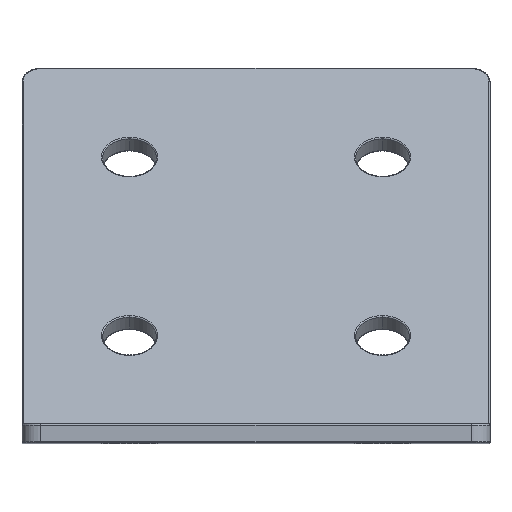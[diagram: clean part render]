
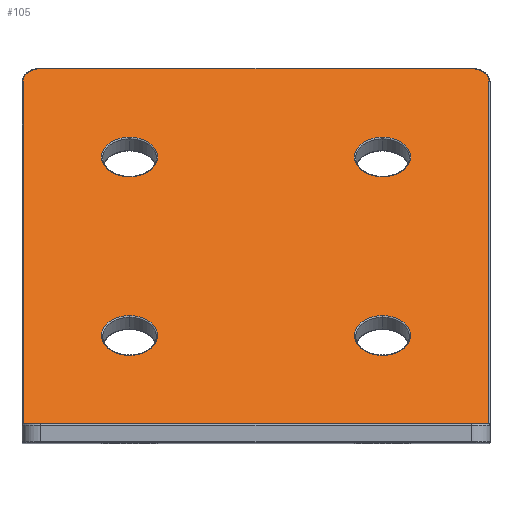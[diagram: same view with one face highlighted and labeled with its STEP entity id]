
A CAD part, top view. The second image highlights one B-rep face of the part: STEP entity #105.
In plain terms, the highlighted planar face has unit normal (0, 0.707, 0.707).
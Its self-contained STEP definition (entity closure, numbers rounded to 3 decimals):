
#8 = CARTESIAN_POINT ( 'NONE',  ( 20., 14.142, -14.142 ) ) ;
#32 = DIRECTION ( 'NONE',  ( 0., 0.707, 0.707 ) ) ;
#72 = CARTESIAN_POINT ( 'NONE',  ( -20., 42.426, -42.426 ) ) ;
#74 = DIRECTION ( 'NONE',  ( -1., 0., 0. ) ) ;
#83 = ORIENTED_EDGE ( 'NONE', *, *, #285, .F. ) ;
#105 = ADVANCED_FACE ( 'NONE', ( #2038, #1234, #823, #1631, #2429 ), #1865, .T. ) ;
#128 = VERTEX_POINT ( 'NONE', #733 ) ;
#134 = AXIS2_PLACEMENT_3D ( 'NONE', #1995, #2012, #1591 ) ;
#147 = ORIENTED_EDGE ( 'NONE', *, *, #453, .T. ) ;
#173 = AXIS2_PLACEMENT_3D ( 'NONE', #1735, #691, #2322 ) ;
#188 = CIRCLE ( 'NONE', #1197, 4.45 ) ;
#190 = VECTOR ( 'NONE', #2056, 1000. ) ;
#193 = EDGE_LOOP ( 'NONE', ( #83, #147, #1918, #1162, #422, #1595 ) ) ;
#198 = VERTEX_POINT ( 'NONE', #1488 ) ;
#217 = DIRECTION ( 'NONE',  ( 0., 0.707, 0.707 ) ) ;
#246 = EDGE_CURVE ( 'NONE', #2073, #979, #339, .T. ) ;
#266 = CARTESIAN_POINT ( 'NONE',  ( 37., 56.427, -56.427 ) ) ;
#280 = EDGE_CURVE ( 'NONE', #514, #1072, #2287, .T. ) ;
#285 = EDGE_CURVE ( 'NONE', #1957, #1997, #1085, .T. ) ;
#309 = CARTESIAN_POINT ( 'NONE',  ( -34., 56.427, -56.427 ) ) ;
#315 = ORIENTED_EDGE ( 'NONE', *, *, #1260, .T. ) ;
#321 = DIRECTION ( 'NONE',  ( 0., -0.707, -0.707 ) ) ;
#339 = CIRCLE ( 'NONE', #1271, 4.45 ) ;
#362 = CARTESIAN_POINT ( 'NONE',  ( 20., 45.573, -45.573 ) ) ;
#378 = VERTEX_POINT ( 'NONE', #1125 ) ;
#407 = DIRECTION ( 'NONE',  ( 0., 0.707, -0.707 ) ) ;
#422 = ORIENTED_EDGE ( 'NONE', *, *, #2405, .T. ) ;
#445 = LINE ( 'NONE', #266, #190 ) ;
#453 = EDGE_CURVE ( 'NONE', #1957, #1555, #2234, .T. ) ;
#482 = CARTESIAN_POINT ( 'NONE',  ( -20., 14.142, -14.142 ) ) ;
#509 = DIRECTION ( 'NONE',  ( 0., 0.707, 0.707 ) ) ;
#514 = VERTEX_POINT ( 'NONE', #362 ) ;
#532 = DIRECTION ( 'NONE',  ( 0., -0.707, 0.707 ) ) ;
#533 = EDGE_CURVE ( 'NONE', #1072, #514, #810, .T. ) ;
#583 = ORIENTED_EDGE ( 'NONE', *, *, #1975, .T. ) ;
#672 = VECTOR ( 'NONE', #74, 1000. ) ;
#678 = CIRCLE ( 'NONE', #134, 4.45 ) ;
#681 = EDGE_LOOP ( 'NONE', ( #1139, #2190 ) ) ;
#691 = DIRECTION ( 'NONE',  ( 0., -0.707, -0.707 ) ) ;
#711 = LINE ( 'NONE', #1524, #2255 ) ;
#723 = AXIS2_PLACEMENT_3D ( 'NONE', #2159, #1505, #1104 ) ;
#733 = CARTESIAN_POINT ( 'NONE',  ( 20., 10.996, -10.996 ) ) ;
#742 = EDGE_LOOP ( 'NONE', ( #2600, #2269 ) ) ;
#765 = CIRCLE ( 'NONE', #974, 4.45 ) ;
#798 = CARTESIAN_POINT ( 'NONE',  ( -20., 17.289, -17.289 ) ) ;
#810 = CIRCLE ( 'NONE', #2296, 4.45 ) ;
#815 = CARTESIAN_POINT ( 'NONE',  ( 20., 42.426, -42.426 ) ) ;
#817 = DIRECTION ( 'NONE',  ( 0., -0.707, -0.707 ) ) ;
#818 = AXIS2_PLACEMENT_3D ( 'NONE', #2285, #217, #1683 ) ;
#823 = FACE_BOUND ( 'NONE', #1973, .T. ) ;
#846 = DIRECTION ( 'NONE',  ( 0., -0.707, 0.707 ) ) ;
#871 = ORIENTED_EDGE ( 'NONE', *, *, #920, .T. ) ;
#918 = EDGE_CURVE ( 'NONE', #979, #2073, #2367, .T. ) ;
#920 = EDGE_CURVE ( 'NONE', #1040, #198, #1652, .T. ) ;
#948 = CIRCLE ( 'NONE', #818, 2.8 ) ;
#950 = VERTEX_POINT ( 'NONE', #309 ) ;
#974 = AXIS2_PLACEMENT_3D ( 'NONE', #8, #817, #1635 ) ;
#979 = VERTEX_POINT ( 'NONE', #798 ) ;
#1017 = AXIS2_PLACEMENT_3D ( 'NONE', #1722, #509, #2302 ) ;
#1026 = DIRECTION ( 'NONE',  ( 0., -0.707, 0.707 ) ) ;
#1040 = VERTEX_POINT ( 'NONE', #2027 ) ;
#1072 = VERTEX_POINT ( 'NONE', #1835 ) ;
#1082 = EDGE_CURVE ( 'NONE', #128, #378, #765, .T. ) ;
#1085 = LINE ( 'NONE', #2156, #672 ) ;
#1096 = CARTESIAN_POINT ( 'NONE',  ( 36.8, 0.234, -0.234 ) ) ;
#1104 = DIRECTION ( 'NONE',  ( 0., -0.707, 0.707 ) ) ;
#1109 = EDGE_CURVE ( 'NONE', #1555, #2055, #2488, .T. ) ;
#1125 = CARTESIAN_POINT ( 'NONE',  ( 20., 17.289, -17.289 ) ) ;
#1139 = ORIENTED_EDGE ( 'NONE', *, *, #246, .T. ) ;
#1162 = ORIENTED_EDGE ( 'NONE', *, *, #2430, .T. ) ;
#1197 = AXIS2_PLACEMENT_3D ( 'NONE', #72, #1690, #2490 ) ;
#1234 = FACE_BOUND ( 'NONE', #1912, .T. ) ;
#1260 = EDGE_CURVE ( 'NONE', #378, #128, #678, .T. ) ;
#1271 = AXIS2_PLACEMENT_3D ( 'NONE', #482, #1547, #2349 ) ;
#1349 = CARTESIAN_POINT ( 'NONE',  ( -36.8, 54.447, -54.447 ) ) ;
#1393 = EDGE_CURVE ( 'NONE', #2562, #1997, #711, .T. ) ;
#1464 = CARTESIAN_POINT ( 'NONE',  ( 37., 0., 0. ) ) ;
#1484 = VECTOR ( 'NONE', #407, 1000. ) ;
#1488 = CARTESIAN_POINT ( 'NONE',  ( -20., 39.28, -39.28 ) ) ;
#1505 = DIRECTION ( 'NONE',  ( 0., -0.707, -0.707 ) ) ;
#1524 = CARTESIAN_POINT ( 'NONE',  ( -36.8, 0., 0. ) ) ;
#1547 = DIRECTION ( 'NONE',  ( 0., -0.707, -0.707 ) ) ;
#1555 = VERTEX_POINT ( 'NONE', #2278 ) ;
#1587 = ORIENTED_EDGE ( 'NONE', *, *, #1082, .T. ) ;
#1591 = DIRECTION ( 'NONE',  ( 0., -0.707, 0.707 ) ) ;
#1595 = ORIENTED_EDGE ( 'NONE', *, *, #1393, .T. ) ;
#1618 = CARTESIAN_POINT ( 'NONE',  ( -36.8, 0.234, -0.234 ) ) ;
#1631 = FACE_BOUND ( 'NONE', #742, .T. ) ;
#1635 = DIRECTION ( 'NONE',  ( 0., -0.707, 0.707 ) ) ;
#1652 = CIRCLE ( 'NONE', #723, 4.45 ) ;
#1683 = DIRECTION ( 'NONE',  ( 0., -0.707, 0.707 ) ) ;
#1690 = DIRECTION ( 'NONE',  ( 0., -0.707, -0.707 ) ) ;
#1722 = CARTESIAN_POINT ( 'NONE',  ( 34., 54.447, -54.447 ) ) ;
#1735 = CARTESIAN_POINT ( 'NONE',  ( -20., 14.142, -14.142 ) ) ;
#1831 = AXIS2_PLACEMENT_3D ( 'NONE', #2147, #321, #532 ) ;
#1835 = CARTESIAN_POINT ( 'NONE',  ( 20., 39.28, -39.28 ) ) ;
#1865 = PLANE ( 'NONE',  #2366 ) ;
#1912 = EDGE_LOOP ( 'NONE', ( #583, #871 ) ) ;
#1918 = ORIENTED_EDGE ( 'NONE', *, *, #1109, .T. ) ;
#1957 = VERTEX_POINT ( 'NONE', #1096 ) ;
#1973 = EDGE_LOOP ( 'NONE', ( #1587, #315 ) ) ;
#1975 = EDGE_CURVE ( 'NONE', #198, #1040, #188, .T. ) ;
#1994 = DIRECTION ( 'NONE',  ( 0., -0.707, -0.707 ) ) ;
#1995 = CARTESIAN_POINT ( 'NONE',  ( 20., 14.142, -14.142 ) ) ;
#1997 = VERTEX_POINT ( 'NONE', #1618 ) ;
#2012 = DIRECTION ( 'NONE',  ( 0., -0.707, -0.707 ) ) ;
#2022 = CARTESIAN_POINT ( 'NONE',  ( 36.8, 0., 0. ) ) ;
#2027 = CARTESIAN_POINT ( 'NONE',  ( -20., 45.573, -45.573 ) ) ;
#2038 = FACE_OUTER_BOUND ( 'NONE', #193, .T. ) ;
#2055 = VERTEX_POINT ( 'NONE', #2522 ) ;
#2056 = DIRECTION ( 'NONE',  ( -1., 0., 0. ) ) ;
#2073 = VERTEX_POINT ( 'NONE', #2563 ) ;
#2147 = CARTESIAN_POINT ( 'NONE',  ( 20., 42.426, -42.426 ) ) ;
#2156 = CARTESIAN_POINT ( 'NONE',  ( 37., 0.234, -0.234 ) ) ;
#2159 = CARTESIAN_POINT ( 'NONE',  ( -20., 42.426, -42.426 ) ) ;
#2190 = ORIENTED_EDGE ( 'NONE', *, *, #918, .T. ) ;
#2234 = LINE ( 'NONE', #2022, #1484 ) ;
#2255 = VECTOR ( 'NONE', #2504, 1000. ) ;
#2269 = ORIENTED_EDGE ( 'NONE', *, *, #280, .T. ) ;
#2278 = CARTESIAN_POINT ( 'NONE',  ( 36.8, 54.447, -54.447 ) ) ;
#2285 = CARTESIAN_POINT ( 'NONE',  ( -34., 54.447, -54.447 ) ) ;
#2287 = CIRCLE ( 'NONE', #1831, 4.45 ) ;
#2296 = AXIS2_PLACEMENT_3D ( 'NONE', #815, #1994, #1026 ) ;
#2302 = DIRECTION ( 'NONE',  ( 0., -0.707, 0.707 ) ) ;
#2322 = DIRECTION ( 'NONE',  ( 0., -0.707, 0.707 ) ) ;
#2349 = DIRECTION ( 'NONE',  ( 0., -0.707, 0.707 ) ) ;
#2366 = AXIS2_PLACEMENT_3D ( 'NONE', #1464, #32, #846 ) ;
#2367 = CIRCLE ( 'NONE', #173, 4.45 ) ;
#2405 = EDGE_CURVE ( 'NONE', #950, #2562, #948, .T. ) ;
#2429 = FACE_BOUND ( 'NONE', #681, .T. ) ;
#2430 = EDGE_CURVE ( 'NONE', #2055, #950, #445, .T. ) ;
#2488 = CIRCLE ( 'NONE', #1017, 2.8 ) ;
#2490 = DIRECTION ( 'NONE',  ( 0., -0.707, 0.707 ) ) ;
#2504 = DIRECTION ( 'NONE',  ( 0., -0.707, 0.707 ) ) ;
#2522 = CARTESIAN_POINT ( 'NONE',  ( 34., 56.427, -56.427 ) ) ;
#2562 = VERTEX_POINT ( 'NONE', #1349 ) ;
#2563 = CARTESIAN_POINT ( 'NONE',  ( -20., 10.996, -10.996 ) ) ;
#2600 = ORIENTED_EDGE ( 'NONE', *, *, #533, .T. ) ;
